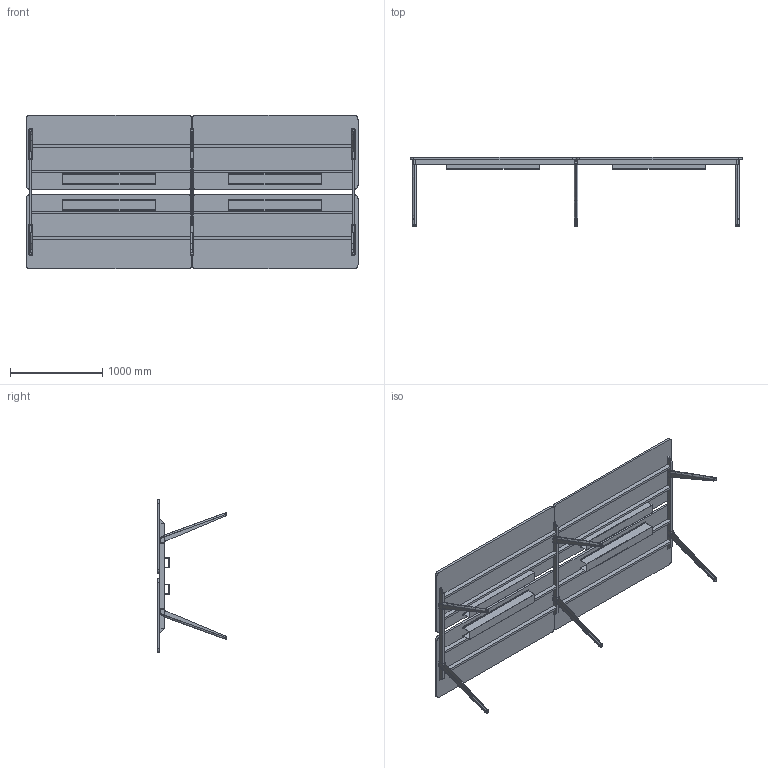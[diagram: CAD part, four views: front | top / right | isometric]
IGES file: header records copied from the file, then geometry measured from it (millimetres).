
Start section: SolidWorks IGES file using analytic representation for surfaces
Global section: file name: C:\Users\simone.cerana\OneDrive - Gruppo Tecno\Desktop\CHINA\DISEGNI DI SERIE\ASSIEMI LISTINO\HORIZON LISTINO\FULL OPTIONAL\HO3616ST.IGS; native system: SolidWorks 2024; preprocessor: SolidWorks 2024; author: simone.cerana; date: 260512.150512; units: millimetre
Bounding box: 3601 x 750.58 x 1660 mm (x, y, z)
Surface area: 17389283.4 mm2 (no closed solid volume)
Topology: 0 solids, 0 shells, 614 faces, 7166 edges, 7166 vertices
Faces by surface type: bspline 440, revolution 174
